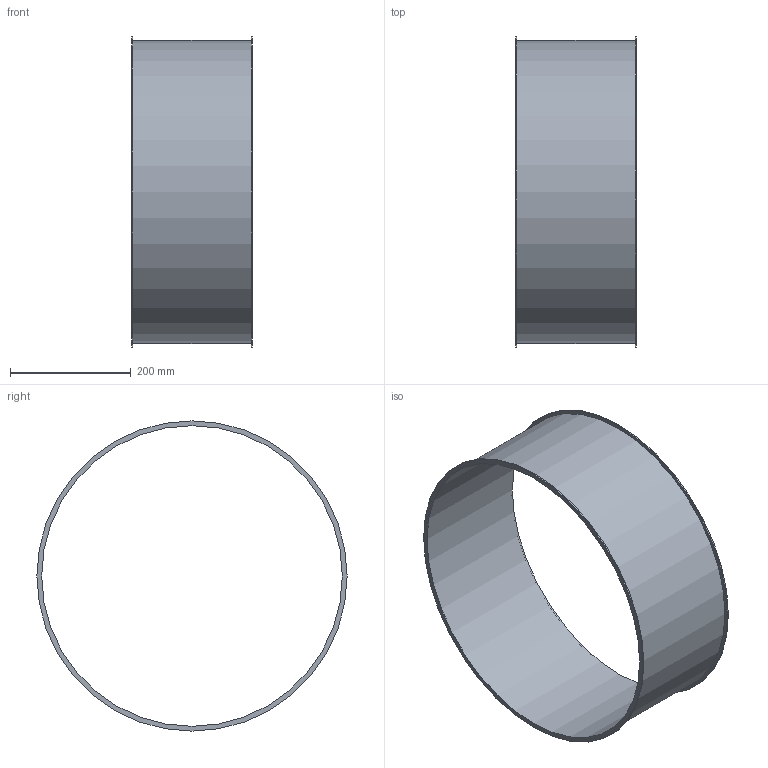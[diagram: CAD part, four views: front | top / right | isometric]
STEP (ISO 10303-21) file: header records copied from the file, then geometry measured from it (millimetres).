
FILE_DESCRIPTION((''),'2;1');
FILE_NAME('U:\Wolfgang\Marcel-3D\fertig\Kapitel 1\5021004.stp','2010-05-31T12:36:45',('TK2'),(''),'Autodesk Inventor 2010','Autodesk Inventor 2010','');
FILE_SCHEMA(('AUTOMOTIVE_DESIGN { 1 0 10303 214 1 1 1 1 }'));
Length unit declared in the file: millimetre
Products named in the file (1): 5021004
Bounding box: 200 x 514 x 514 mm (x, y, z)
Volume: 666620.8 mm3; surface area: 673054.8 mm2
Topology: 1 solids, 1 shells, 8 faces, 12 edges, 8 vertices
Faces by surface type: cylinder 4, plane 4
Full cylindrical faces by diameter (mm): 498 x1, 502 x1, 514 x2
Entity records: 194 total; most frequent: DIRECTION 34, CARTESIAN_POINT 25, AXIS2_PLACEMENT_3D 17, ORIENTED_EDGE 16, EDGE_LOOP 16, VERTEX_POINT 8, CIRCLE 8, EDGE_CURVE 8
